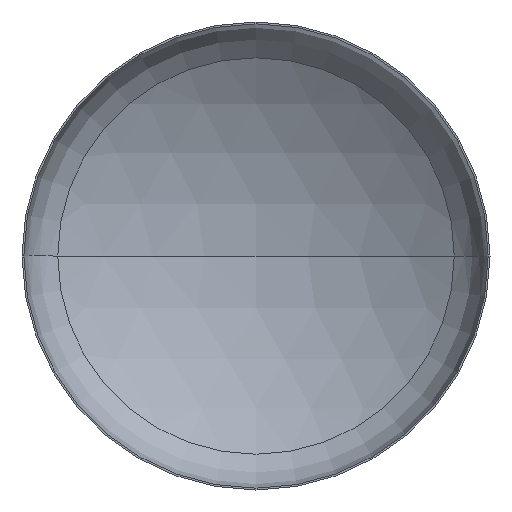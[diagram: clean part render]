
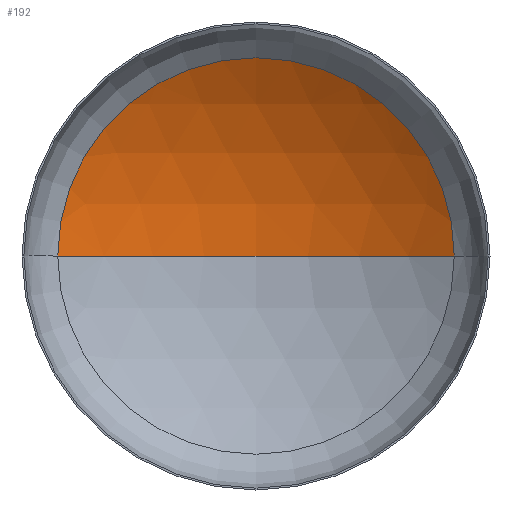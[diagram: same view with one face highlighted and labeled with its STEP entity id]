
A CAD part, front view. The second image highlights one B-rep face of the part: STEP entity #192.
In plain terms, the highlighted spherical face has radius 3040 mm.
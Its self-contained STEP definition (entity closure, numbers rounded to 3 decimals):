
#9 = CARTESIAN_POINT ( 'NONE',  ( 0., 541.25, 0. ) ) ;
#10 = EDGE_LOOP ( 'NONE', ( #112, #104, #80 ) ) ;
#18 = VERTEX_POINT ( 'NONE', #257 ) ;
#31 = AXIS2_PLACEMENT_3D ( 'NONE', #346, #208, #243 ) ;
#32 = CARTESIAN_POINT ( 'NONE',  ( 0., -2037.553, 0. ) ) ;
#36 = VERTEX_POINT ( 'NONE', #301 ) ;
#43 = AXIS2_PLACEMENT_3D ( 'NONE', #210, #222, #218 ) ;
#48 = AXIS2_PLACEMENT_3D ( 'NONE', #32, #124, #390 ) ;
#49 = AXIS2_PLACEMENT_3D ( 'NONE', #9, #164, #186 ) ;
#80 = ORIENTED_EDGE ( 'NONE', *, *, #118, .T. ) ;
#90 = SPHERICAL_SURFACE ( 'NONE', #31, 3040. ) ;
#104 = ORIENTED_EDGE ( 'NONE', *, *, #123, .T. ) ;
#112 = ORIENTED_EDGE ( 'NONE', *, *, #150, .F. ) ;
#118 = EDGE_CURVE ( 'NONE', #220, #18, #311, .T. ) ;
#123 = EDGE_CURVE ( 'NONE', #36, #220, #199, .T. ) ;
#124 = DIRECTION ( 'NONE',  ( 0., 0., -1. ) ) ;
#150 = EDGE_CURVE ( 'NONE', #36, #18, #249, .T. ) ;
#164 = DIRECTION ( 'NONE',  ( 0., -1., 0. ) ) ;
#184 = CARTESIAN_POINT ( 'NONE',  ( 1609.776, 541.25, 0. ) ) ;
#186 = DIRECTION ( 'NONE',  ( 1., 0., 0. ) ) ;
#192 = ADVANCED_FACE ( 'NONE', ( #244 ), #90, .F. ) ;
#199 = CIRCLE ( 'NONE', #48, 3040. ) ;
#208 = DIRECTION ( 'NONE',  ( 0., 0., -1. ) ) ;
#210 = CARTESIAN_POINT ( 'NONE',  ( 0., -2037.553, 0. ) ) ;
#218 = DIRECTION ( 'NONE',  ( 1., 0., 0. ) ) ;
#220 = VERTEX_POINT ( 'NONE', #184 ) ;
#222 = DIRECTION ( 'NONE',  ( 0., 0., 1. ) ) ;
#243 = DIRECTION ( 'NONE',  ( -1., 0., 0. ) ) ;
#244 = FACE_OUTER_BOUND ( 'NONE', #10, .T. ) ;
#249 = CIRCLE ( 'NONE', #43, 3040. ) ;
#257 = CARTESIAN_POINT ( 'NONE',  ( -1609.776, 541.25, 0. ) ) ;
#301 = CARTESIAN_POINT ( 'NONE',  ( 0., 1002.447, 0. ) ) ;
#311 = CIRCLE ( 'NONE', #49, 1609.776 ) ;
#346 = CARTESIAN_POINT ( 'NONE',  ( 0., -2037.553, 0. ) ) ;
#390 = DIRECTION ( 'NONE',  ( -1., 0., 0. ) ) ;
